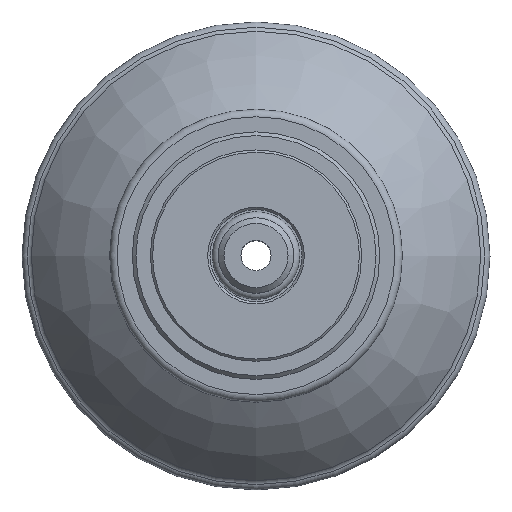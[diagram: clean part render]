
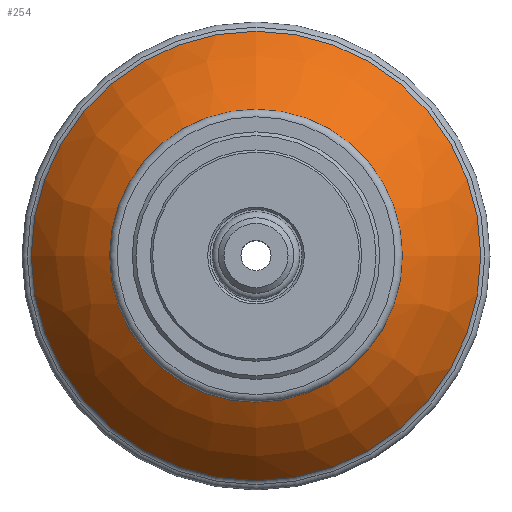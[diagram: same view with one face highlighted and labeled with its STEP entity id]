
A CAD part, top view. The second image highlights one B-rep face of the part: STEP entity #254.
In plain terms, the highlighted free-form (B-spline) face has degree [3, 3] with [4, 7] control points.
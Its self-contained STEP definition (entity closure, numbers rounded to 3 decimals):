
#254 = ADVANCED_FACE( '', ( #552, #553 ), #554, .T. );
#552 = FACE_OUTER_BOUND( '', #915, .T. );
#553 = FACE_OUTER_BOUND( '', #916, .T. );
#554 = ( BOUNDED_SURFACE(  )B_SPLINE_SURFACE( 3, 3, ( ( #919, #920, #921, #922, #923, #924, #925 ), ( #926, #927, #928, #929, #930, #931, #932 ), ( #933, #934, #935, #936, #937, #938, #939 ), ( #940, #941, #942, #943, #944, #945, #946 ) ), .UNSPECIFIED., .F., .T., .F. )B_SPLINE_SURFACE_WITH_KNOTS( ( 4, 4 ), ( 4, 3, 4 ), ( 0., 6.283 ), ( 0.587, 0.81, 1.033 ), .UNSPECIFIED. )GEOMETRIC_REPRESENTATION_ITEM(  )RATIONAL_B_SPLINE_SURFACE( ( ( 1., 0.333, 0.333, 1., 0.333, 0.333, 1. ), ( 0.983, 0.328, 0.328, 0.983, 0.328, 0.328, 0.983 ), ( 0.983, 0.328, 0.328, 0.983, 0.328, 0.328, 0.983 ), ( 1., 0.333, 0.333, 1., 0.333, 0.333, 1. ) ) )REPRESENTATION_ITEM( '' )SURFACE(  ) );
#915 = EDGE_LOOP( '', ( #1361 ) );
#916 = EDGE_LOOP( '', ( #1362 ) );
#919 = CARTESIAN_POINT( '', ( 18.517, 0., -1.806 ) );
#920 = CARTESIAN_POINT( '', ( 18.517, 37.033, -1.806 ) );
#921 = CARTESIAN_POINT( '', ( -18.517, 37.033, -1.806 ) );
#922 = CARTESIAN_POINT( '', ( -18.517, 0., -1.806 ) );
#923 = CARTESIAN_POINT( '', ( -18.517, -37.033, -1.806 ) );
#924 = CARTESIAN_POINT( '', ( 18.517, -37.033, -1.806 ) );
#925 = CARTESIAN_POINT( '', ( 18.517, 0., -1.806 ) );
#926 = CARTESIAN_POINT( '', ( 23.038, 0., -4.5 ) );
#927 = CARTESIAN_POINT( '', ( 23.038, 46.076, -4.5 ) );
#928 = CARTESIAN_POINT( '', ( -23.038, 46.076, -4.5 ) );
#929 = CARTESIAN_POINT( '', ( -23.038, 0., -4.5 ) );
#930 = CARTESIAN_POINT( '', ( -23.038, -46.076, -4.5 ) );
#931 = CARTESIAN_POINT( '', ( 23.038, -46.076, -4.5 ) );
#932 = CARTESIAN_POINT( '', ( 23.038, 0., -4.5 ) );
#933 = CARTESIAN_POINT( '', ( 26.851, 0., -8.127 ) );
#934 = CARTESIAN_POINT( '', ( 26.851, 53.703, -8.127 ) );
#935 = CARTESIAN_POINT( '', ( -26.851, 53.703, -8.127 ) );
#936 = CARTESIAN_POINT( '', ( -26.851, 0., -8.127 ) );
#937 = CARTESIAN_POINT( '', ( -26.851, -53.703, -8.127 ) );
#938 = CARTESIAN_POINT( '', ( 26.851, -53.703, -8.127 ) );
#939 = CARTESIAN_POINT( '', ( 26.851, 0., -8.127 ) );
#940 = CARTESIAN_POINT( '', ( 29.768, 0., -12.508 ) );
#941 = CARTESIAN_POINT( '', ( 29.768, 59.535, -12.508 ) );
#942 = CARTESIAN_POINT( '', ( -29.768, 59.535, -12.508 ) );
#943 = CARTESIAN_POINT( '', ( -29.768, 0., -12.508 ) );
#944 = CARTESIAN_POINT( '', ( -29.768, -59.535, -12.508 ) );
#945 = CARTESIAN_POINT( '', ( 29.768, -59.535, -12.508 ) );
#946 = CARTESIAN_POINT( '', ( 29.768, 0., -12.508 ) );
#1361 = ORIENTED_EDGE( '', *, *, #1504, .T. );
#1362 = ORIENTED_EDGE( '', *, *, #1370, .F. );
#1370 = EDGE_CURVE( '', #1507, #1507, #1508, .T. );
#1504 = EDGE_CURVE( '', #1708, #1708, #1709, .T. );
#1507 = VERTEX_POINT( '', #1712 );
#1508 = CIRCLE( '', #1713, 18.517 );
#1708 = VERTEX_POINT( '', #1913 );
#1709 = CIRCLE( '', #1914, 29.768 );
#1712 = CARTESIAN_POINT( '', ( 18.517, 0., -1.806 ) );
#1713 = AXIS2_PLACEMENT_3D( '', #1916, #1917, #1918 );
#1913 = CARTESIAN_POINT( '', ( 29.768, 0., -12.508 ) );
#1914 = AXIS2_PLACEMENT_3D( '', #2117, #2118, #2119 );
#1916 = CARTESIAN_POINT( '', ( 0., 0., -1.806 ) );
#1917 = DIRECTION( '', ( 0., 0., 1. ) );
#1918 = DIRECTION( '', ( 1., 0., 0. ) );
#2117 = CARTESIAN_POINT( '', ( 0., 0., -12.508 ) );
#2118 = DIRECTION( '', ( 0., 0., 1. ) );
#2119 = DIRECTION( '', ( 1., 0., 0. ) );
